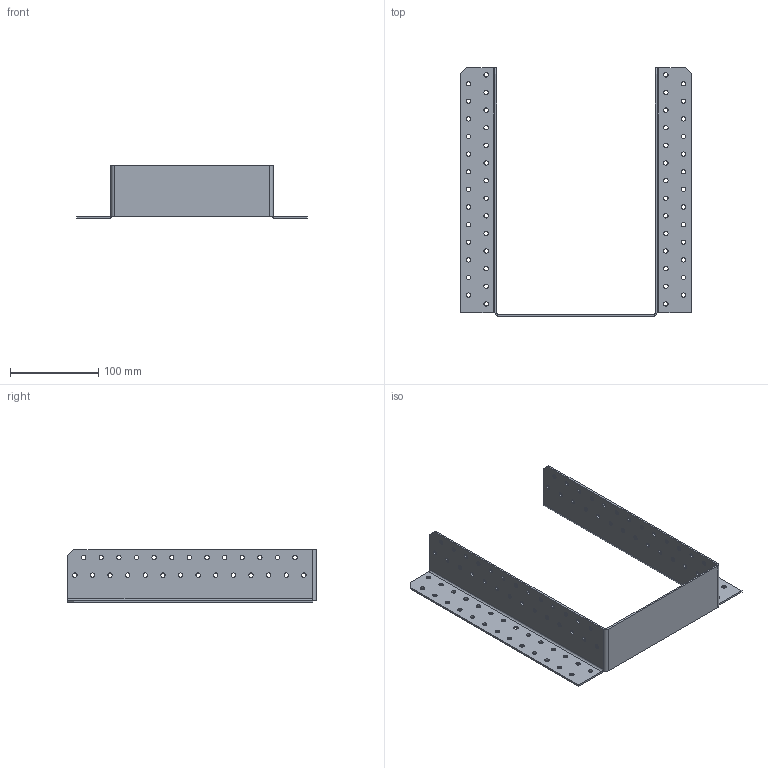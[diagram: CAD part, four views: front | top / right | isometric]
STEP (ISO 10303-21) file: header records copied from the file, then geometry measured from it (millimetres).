
FILE_DESCRIPTION (( 'STEP AP203' ), '1' );
FILE_NAME ('405242.STEP', '2021-04-17T17:52:22', ( '' ), ( '' ), 'SwSTEP 2.0', 'SolidWorks 2013', '' );
FILE_SCHEMA (( 'CONFIG_CONTROL_DESIGN' ));
Length unit declared in the file: millimetre
Products named in the file (1): 405242
Bounding box: 262 x 282 x 60 mm (x, y, z)
Volume: 125728.3 mm3; surface area: 132605.2 mm2
Topology: 1 solids, 1 shells, 260 faces, 744 edges, 486 vertices
Faces by surface type: cylinder 224, plane 36
Entity records: 9227 total; most frequent: DIRECTION 1716, CARTESIAN_POINT 1491, ORIENTED_EDGE 1488, EDGE_CURVE 744, AXIS2_PLACEMENT_3D 711, VERTEX_POINT 486, EDGE_LOOP 476, CIRCLE 450
